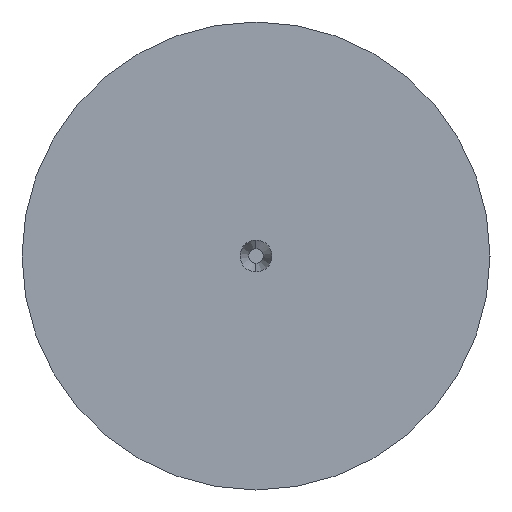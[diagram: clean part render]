
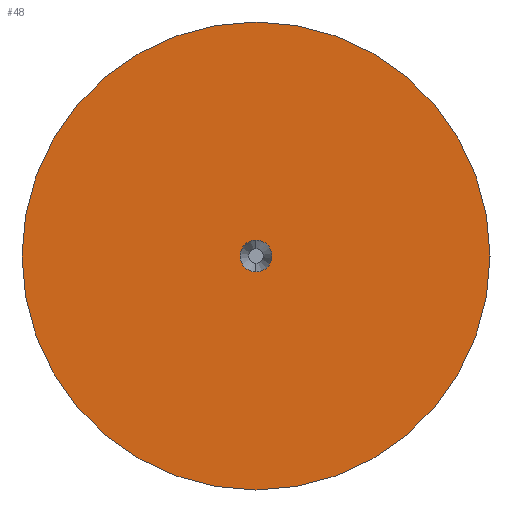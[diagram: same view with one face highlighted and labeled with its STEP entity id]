
A CAD part, left-side view. The second image highlights one B-rep face of the part: STEP entity #48.
In plain terms, the highlighted planar face has unit normal (-1, 0, 0).
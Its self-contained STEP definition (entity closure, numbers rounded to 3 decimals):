
#41 = CARTESIAN_POINT ( 'NONE',  ( 0., 0., 0. ) ) ;
#47 = CARTESIAN_POINT ( 'NONE',  ( 0., 0., 0. ) ) ;
#48 = ADVANCED_FACE ( 'NONE', ( #293, #202 ), #115, .F. ) ;
#50 = AXIS2_PLACEMENT_3D ( 'NONE', #274, #219, #296 ) ;
#53 = ORIENTED_EDGE ( 'NONE', *, *, #234, .F. ) ;
#66 = CARTESIAN_POINT ( 'NONE',  ( 0., 0., 0. ) ) ;
#67 = DIRECTION ( 'NONE',  ( 0., 0., 1. ) ) ;
#73 = DIRECTION ( 'NONE',  ( 1., 0., 0. ) ) ;
#75 = EDGE_LOOP ( 'NONE', ( #197, #114 ) ) ;
#77 = DIRECTION ( 'NONE',  ( -1., 0., 0. ) ) ;
#93 = CARTESIAN_POINT ( 'NONE',  ( 0., 0., 0. ) ) ;
#98 = EDGE_LOOP ( 'NONE', ( #217, #53 ) ) ;
#105 = CIRCLE ( 'NONE', #50, 2.2 ) ;
#114 = ORIENTED_EDGE ( 'NONE', *, *, #250, .T. ) ;
#115 = PLANE ( 'NONE',  #223 ) ;
#117 = CIRCLE ( 'NONE', #122, 0.15 ) ;
#122 = AXIS2_PLACEMENT_3D ( 'NONE', #66, #298, #131 ) ;
#129 = DIRECTION ( 'NONE',  ( 0., 0., -1. ) ) ;
#131 = DIRECTION ( 'NONE',  ( 0., 0., 1. ) ) ;
#138 = EDGE_CURVE ( 'NONE', #192, #140, #105, .T. ) ;
#140 = VERTEX_POINT ( 'NONE', #146 ) ;
#146 = CARTESIAN_POINT ( 'NONE',  ( 0., 0., -2.2 ) ) ;
#152 = AXIS2_PLACEMENT_3D ( 'NONE', #93, #77, #263 ) ;
#156 = VERTEX_POINT ( 'NONE', #271 ) ;
#168 = CIRCLE ( 'NONE', #254, 2.2 ) ;
#187 = EDGE_CURVE ( 'NONE', #156, #259, #117, .T. ) ;
#192 = VERTEX_POINT ( 'NONE', #260 ) ;
#194 = CIRCLE ( 'NONE', #152, 0.15 ) ;
#197 = ORIENTED_EDGE ( 'NONE', *, *, #138, .T. ) ;
#202 = FACE_OUTER_BOUND ( 'NONE', #75, .T. ) ;
#204 = DIRECTION ( 'NONE',  ( -1., 0., 0. ) ) ;
#217 = ORIENTED_EDGE ( 'NONE', *, *, #187, .F. ) ;
#219 = DIRECTION ( 'NONE',  ( -1., 0., 0. ) ) ;
#223 = AXIS2_PLACEMENT_3D ( 'NONE', #47, #73, #129 ) ;
#234 = EDGE_CURVE ( 'NONE', #259, #156, #194, .T. ) ;
#250 = EDGE_CURVE ( 'NONE', #140, #192, #168, .T. ) ;
#251 = CARTESIAN_POINT ( 'NONE',  ( 0., 0., -0.15 ) ) ;
#254 = AXIS2_PLACEMENT_3D ( 'NONE', #41, #204, #67 ) ;
#259 = VERTEX_POINT ( 'NONE', #251 ) ;
#260 = CARTESIAN_POINT ( 'NONE',  ( 0., 0., 2.2 ) ) ;
#263 = DIRECTION ( 'NONE',  ( 0., 0., 1. ) ) ;
#271 = CARTESIAN_POINT ( 'NONE',  ( 0., 0., 0.15 ) ) ;
#274 = CARTESIAN_POINT ( 'NONE',  ( 0., 0., 0. ) ) ;
#293 = FACE_BOUND ( 'NONE', #98, .T. ) ;
#296 = DIRECTION ( 'NONE',  ( 0., 0., 1. ) ) ;
#298 = DIRECTION ( 'NONE',  ( -1., 0., 0. ) ) ;
